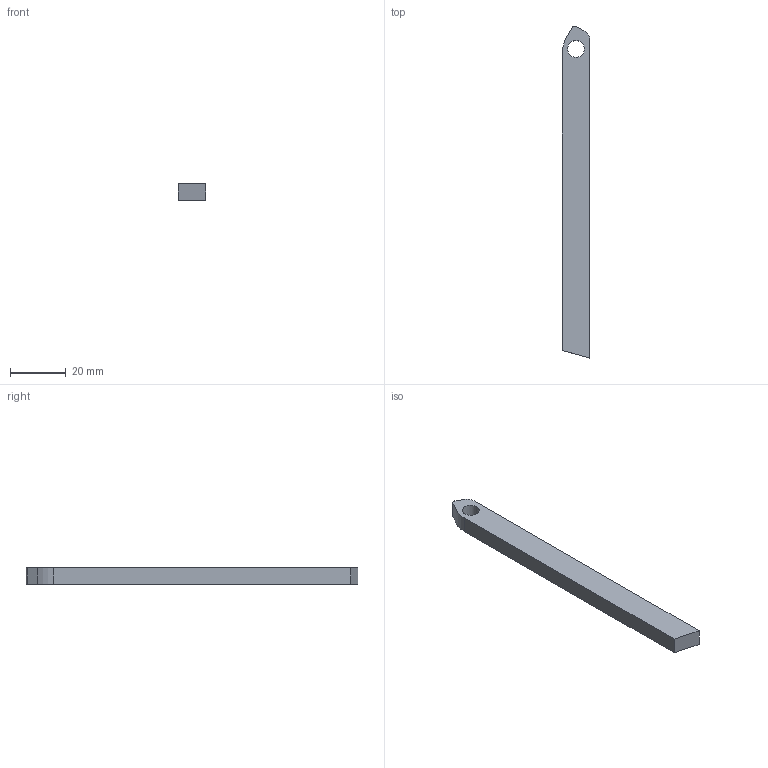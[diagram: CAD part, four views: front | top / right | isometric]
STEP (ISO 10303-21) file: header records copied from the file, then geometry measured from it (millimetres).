
FILE_DESCRIPTION(/* description */ ('','CAx-IF Rec.Pracs.---Representation and Presentation of Product Manufacturing Information (PMI)---4.0---2014-10-13'),/* implementation_level */ '2;1');
FILE_NAME(/* name */ 'Staender.step',/* time_stamp */ '2025-01-07T21:37:09+01:00',/* author */ (''),/* organization */ (''),/* preprocessor_version */ 'ST-DEVELOPER v20',/* originating_system */ 'Autodesk Translation Framework v13.20.0.188',/* authorisation */ '');
FILE_SCHEMA (('AP242_MANAGED_MODEL_BASED_3D_ENGINEERING_MIM_LF { 1 0 10303 442 1 1 4 }'));
Length unit declared in the file: millimetre
Products named in the file (1): 02_Staender
Bounding box: 10 x 119.25 x 6 mm (x, y, z)
Volume: 6761.1 mm3; surface area: 3871.3 mm2
Topology: 1 solids, 1 shells, 11 faces, 27 edges, 18 vertices
Faces by surface type: plane 7, cylinder 4
Full cylindrical faces by diameter (mm): 6.1 x1
Entity records: 373 total; most frequent: DIRECTION 59, CARTESIAN_POINT 57, ORIENTED_EDGE 54, EDGE_CURVE 27, AXIS2_PLACEMENT_3D 20, LINE 19, VECTOR 19, VERTEX_POINT 18
